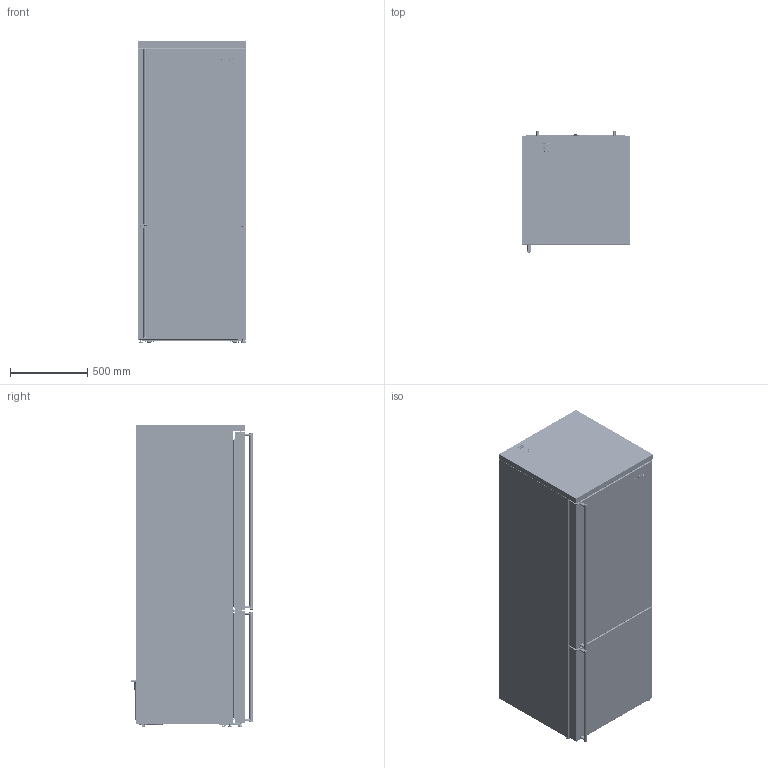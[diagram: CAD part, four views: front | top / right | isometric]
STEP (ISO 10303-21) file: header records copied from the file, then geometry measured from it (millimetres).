
FILE_DESCRIPTION(/* description */ (''),/* implementation_level */ '2;1');
FILE_NAME(/* name */ 'Assy-FA3905RX.stp',/* time_stamp */ '2025-08-06T14:25:07+02:00',/* author */ (''),/* organization */ (''),/* preprocessor_version */ 'ST-DEVELOPER v20',/* originating_system */ 'SIEMENS PLM Software NX2412.4001',/* authorisation */ '');
FILE_SCHEMA (('AUTOMOTIVE_DESIGN { 1 0 10303 214 3 1 1 1 }'));
Products named in the file (1): Assy-FA8005-DX_objects
Bounding box: 703.6 x 787.18 x 1955.1 mm (x, y, z)
Volume: 11310010.3 mm3; surface area: 25132402.6 mm2
Topology: 87 solids, 93 shells, 9206 faces, 23905 edges, 15022 vertices
Faces by surface type: plane 4581, cylinder 3196, torus 483, bspline 461, cone 350, sphere 107, extrusion 20, revolution 8
Full cylindrical faces by diameter (mm): 2 x3, 2.8 x2, 2.9 x6, 3.15 x3, 3.2 x34, 3.4 x2, 3.5 x20, 3.503 x24, 3.6 x2, 3.8 x2, 4 x14, 4.1 x9, 4.2 x20, 4.4 x3, 4.5 x8, 4.6 x14, 4.696 x20, 5 x25, 5.1 x11, 5.2 x14, 5.3 x16, 5.5 x8, 6 x102, 6.2 x2, 6.296 x4, 6.3 x8, 6.5 x3, 6.8 x6, 6.85 x2, 7 x20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
Entity records: 328367 total; most frequent: CARTESIAN_POINT 101341, ORIENTED_EDGE 45394, DIRECTION 45050, EDGE_CURVE 22697, AXIS2_PLACEMENT_3D 15459, VERTEX_POINT 14683, VECTOR 14124, LINE 14104
